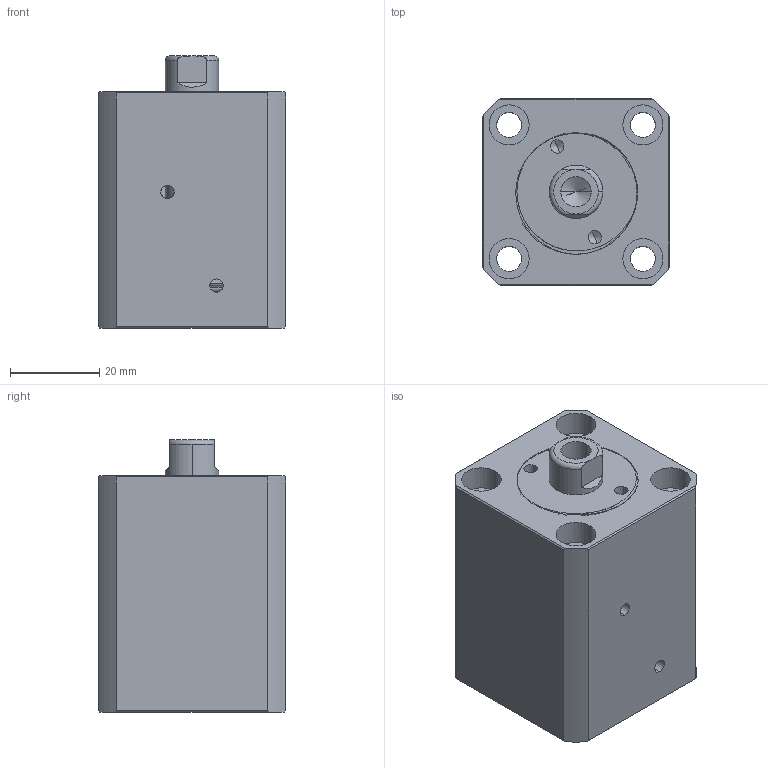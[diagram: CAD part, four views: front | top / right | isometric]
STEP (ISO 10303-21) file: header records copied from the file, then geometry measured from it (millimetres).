
FILE_DESCRIPTION (( 'STEP AP214' ), '1' );
FILE_NAME ('chtb-sdmb20x10n_asm.STEP', '2018-05-18T08:25:31', ( 'Windows' ), ( 'Microsoft' ), 'SwSTEP 2.0', 'SolidWorks 2015', '' );
FILE_SCHEMA (( 'AUTOMOTIVE_DESIGN' ));
Length unit declared in the file: millimetre
Products named in the file (4): CHTB-SDMB20X10NBT; chtb-sdmb20x10n_asm; QG_3; CHTB-SDMB20X10NHSG
Assembly tree (3 placements, depth 2):
  chtb-sdmb20x10n_asm
    CHTB-SDMB20X10NBT
    CHTB-SDMB20X10NHSG
    QG_3
Bounding box: 42 x 42 x 61 mm (x, y, z)
Volume: 81376.5 mm3; surface area: 27710.6 mm2
Topology: 3 solids, 3 shells, 201 faces, 535 edges, 354 vertices
Faces by surface type: cylinder 106, plane 43, torus 25, bspline 21, cone 6
Entity records: 11558 total; most frequent: CARTESIAN_POINT 6663, ORIENTED_EDGE 1058, DIRECTION 922, EDGE_CURVE 529, AXIS2_PLACEMENT_3D 388, VERTEX_POINT 354, EDGE_LOOP 239, CIRCLE 202
